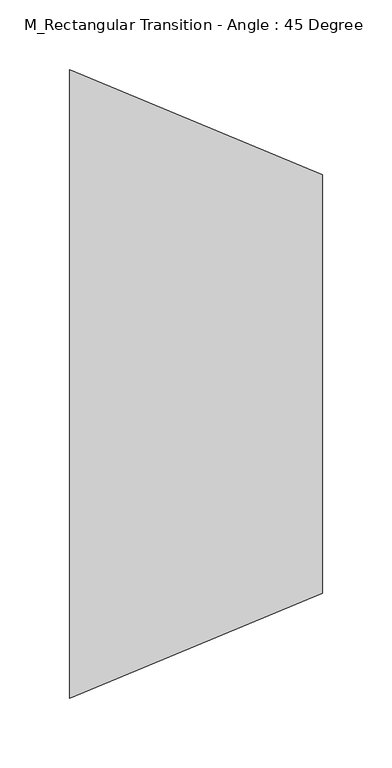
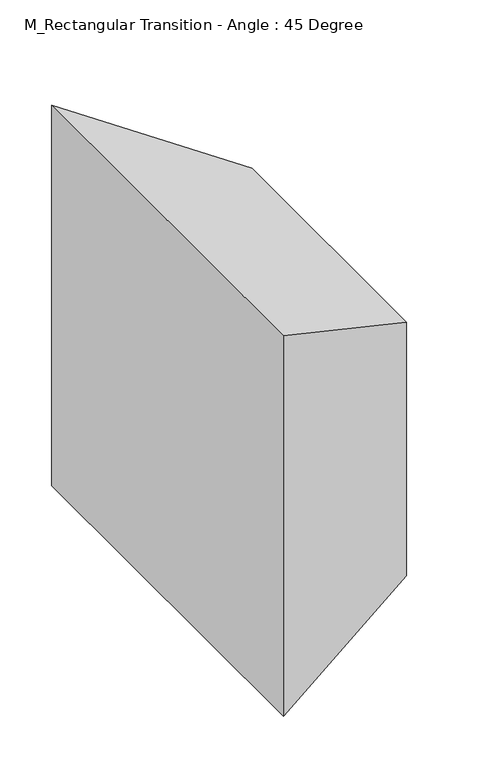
"""IFC4 building model written with IfcOpenShell, lengths in millimetres: duct fitting geometry, M_Rectangular Transition - Angle : 45 Degree."""

from ifc_helpers import new_model, si_unit, origin, place, context, project, spatial, faceted_brep, source, transform, mapped, element, save


def m_rectangular_transition_angle_45_degree_efff1633(model_context):
    return source(origin(), model_context, "Body", "Brep", [
        faceted_brep([(181.0660172, -150.0, 132.2699229), (181.0660172, -150.0, -167.7300771), (181.0660172, 150.0, -167.7300771), (181.0660172, 150.0, 132.2699229), (0.0, -225.0, 225.0), (0.0, 225.0, 225.0), (0.0, 225.0, -225.0), (0.0, -225.0, -225.0)], [[[0, 1, 2, 3]], [[4, 5, 6, 7]], [[4, 7, 1, 0]], [[7, 6, 2, 1]], [[6, 5, 3, 2]], [[5, 4, 0, 3]]]),
        faceted_brep([(181.0660172, -150.0, 132.2699229), (181.0660172, -150.0, -167.7300771), (181.0660172, 150.0, -167.7300771), (181.0660172, 150.0, 132.2699229), (0.0, -225.0, 225.0), (0.0, 225.0, 225.0), (0.0, 225.0, -225.0), (0.0, -225.0, -225.0)], [[[0, 1, 2, 3]], [[4, 5, 6, 7]], [[4, 7, 1, 0]], [[7, 6, 2, 1]], [[6, 5, 3, 2]], [[5, 4, 0, 3]]]),
        faceted_brep([(181.0660172, -150.0, 132.2699229), (181.0660172, -150.0, -167.7300771), (181.0660172, 150.0, -167.7300771), (181.0660172, 150.0, 132.2699229), (0.0, -225.0, 225.0), (0.0, 225.0, 225.0), (0.0, 225.0, -225.0), (0.0, -225.0, -225.0)], [[[0, 1, 2, 3]], [[4, 5, 6, 7]], [[4, 7, 1, 0]], [[7, 6, 2, 1]], [[6, 5, 3, 2]], [[5, 4, 0, 3]]]),
    ])


if __name__ == "__main__":
    model = new_model("IFC4")
    model_context = context("Model", 3, world=origin())
    ifc_project = project(units=[si_unit("LENGTHUNIT", "METRE", prefix="MILLI")], contexts=[model_context])
    site = spatial("IfcSite", under=ifc_project)
    building = spatial("IfcBuilding", under=site)
    placement = place(None, origin())
    m_rectangular_transition_angle_45_degree_shape = m_rectangular_transition_angle_45_degree_efff1633(model_context)
    element("IfcDuctFitting", 1, ObjectType="M_Rectangular Transition - Angle : 45 Degree", at=placement, inside=building, context=model_context, shape_type="MappedRepresentation", body=[
        mapped(m_rectangular_transition_angle_45_degree_shape, transform((0.0, 0.0, 0.0), x_axis=(1.0, 0.0, 0.0), y_axis=(0.0, 1.0, 0.0), z_axis=(0.0, 0.0, 1.0))),
    ])
    save(model, "model.ifc")
